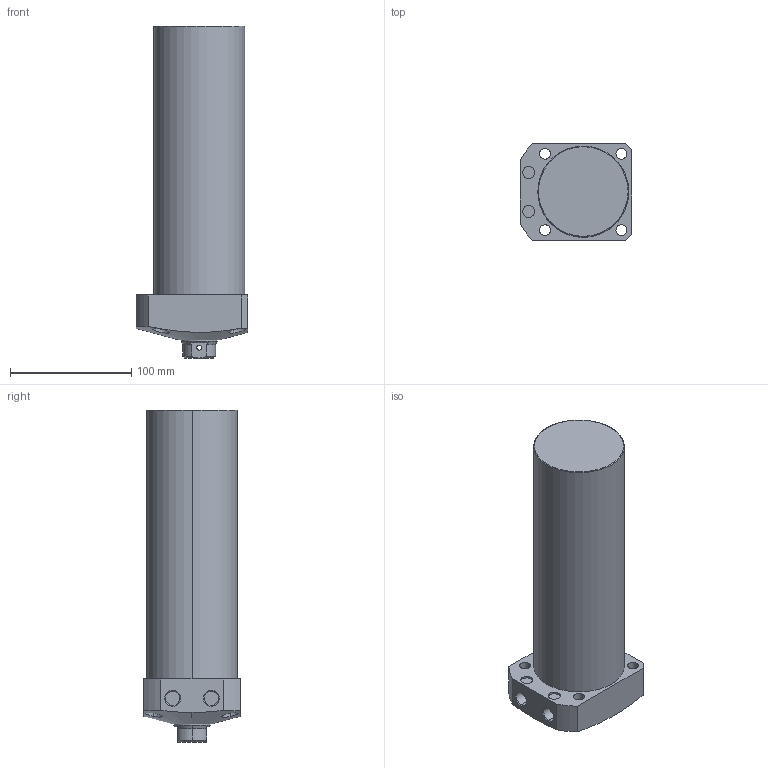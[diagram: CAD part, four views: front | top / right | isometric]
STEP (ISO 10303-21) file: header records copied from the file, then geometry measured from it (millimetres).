
FILE_DESCRIPTION (( 'STEP AP203' ), '1' );
FILE_NAME ('CLL-075CB-185.STEP', '2019-12-24T00:30:25', ( '' ), ( '' ), 'SwSTEP 2.0', 'SolidWorks 2015', '' );
FILE_SCHEMA (( 'CONFIG_CONTROL_DESIGN' ));
Length unit declared in the file: millimetre
Products named in the file (1): CLL-075CB-185
Bounding box: 92 x 80 x 274 mm (x, y, z)
Volume: 1199696.5 mm3; surface area: 84720.6 mm2
Topology: 1 solids, 1 shells, 78 faces, 183 edges, 116 vertices
Faces by surface type: cylinder 39, plane 22, cone 15, torus 2
Entity records: 2862 total; most frequent: CARTESIAN_POINT 955, DIRECTION 396, ORIENTED_EDGE 362, EDGE_CURVE 181, AXIS2_PLACEMENT_3D 164, VERTEX_POINT 116, EDGE_LOOP 101, CIRCLE 85
